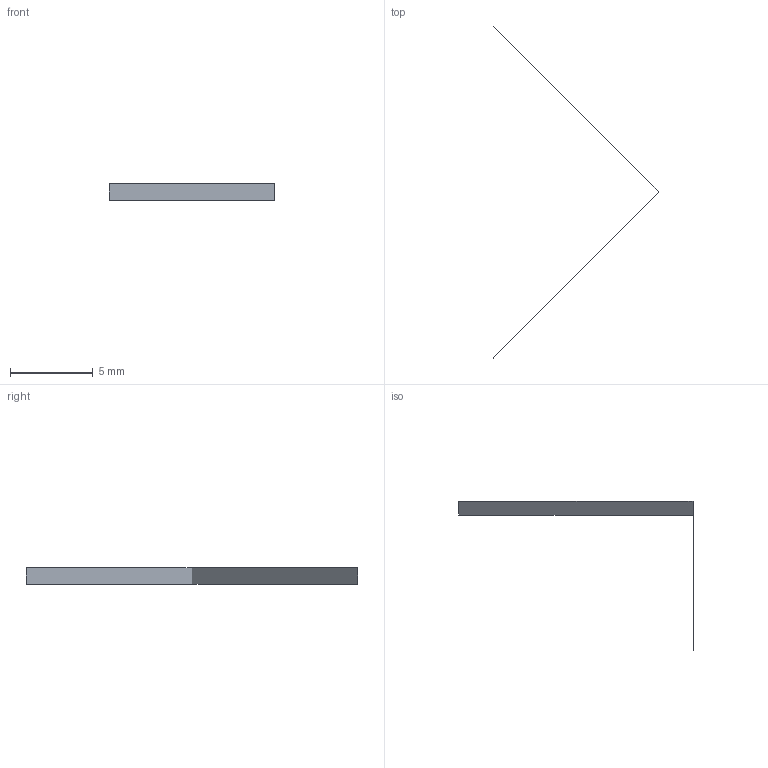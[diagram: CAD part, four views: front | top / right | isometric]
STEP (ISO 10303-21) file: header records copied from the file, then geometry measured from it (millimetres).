
FILE_DESCRIPTION(('BRL-CAD AP214 native-domain NURBS seam fixture'),'2;1');
FILE_NAME('ap214_nurbs_native_seam.stp','2026-07-23T00:00:00',('BRL-CAD'),('BRL-CAD'),'','','');
FILE_SCHEMA(('AUTOMOTIVE_DESIGN { 1 0 10303 214 3 1 1 1 }'));
Length unit declared in the file: millimetre
Products named in the file (1): periodic_nurbs_seam
Bounding box: 10 x 20 x 1 mm (x, y, z)
Surface area: 28.3 mm2 (no closed solid volume)
Topology: 0 solids, 1 shells, 1 faces, 4 edges, 4 vertices
Faces by surface type: bspline 1
Entity records: 49 total; most frequent: CARTESIAN_POINT 10, VERTEX_POINT 4, DIRECTION 4, EDGE_CURVE 4, ORIENTED_EDGE 4, B_SPLINE_CURVE_WITH_KNOTS 2, LINE 2, VECTOR 2
